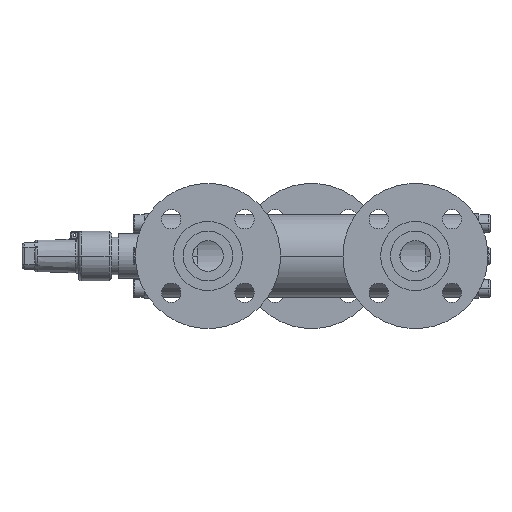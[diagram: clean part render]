
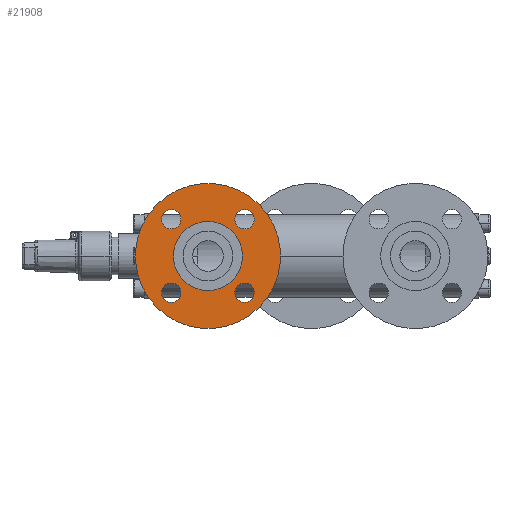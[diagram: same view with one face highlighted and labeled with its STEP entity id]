
A CAD part, left-side view. The second image highlights one B-rep face of the part: STEP entity #21908.
In plain terms, the highlighted planar face has unit normal (-1, 0, 0) as drawn and (0, -1, 0) by its records, which use the part's own axes.
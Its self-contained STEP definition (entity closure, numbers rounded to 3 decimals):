
#252 = EDGE_LOOP ( 'NONE', ( #27656, #26587 ) ) ;
#718 = ORIENTED_EDGE ( 'NONE', *, *, #13743, .T. ) ;
#17144 = CIRCLE ( 'NONE', #17150, 7. ) ;
#17150 = AXIS2_PLACEMENT_3D ( 'NONE', #17151, #17152, #17153 ) ;
#17151 = CARTESIAN_POINT ( 'NONE',  ( 0., 4., 37.5 ) ) ;
#17152 = DIRECTION ( 'NONE',  ( 0., 1., 0. ) ) ;
#17153 = DIRECTION ( 'NONE',  ( 1., 0., 0. ) ) ;
#17320 = EDGE_CURVE ( 'NONE', #11511, #11744, #4996, .T. ) ;
#17397 = EDGE_CURVE ( 'NONE', #4264, #4898, #5038, .T. ) ;
#17865 = ORIENTED_EDGE ( 'NONE', *, *, #10902, .F. ) ;
#1706 = ORIENTED_EDGE ( 'NONE', *, *, #24482, .T. ) ;
#18260 = CARTESIAN_POINT ( 'NONE',  ( -44.5, 4., 0. ) ) ;
#18487 = CARTESIAN_POINT ( 'NONE',  ( -30.5, 4., 0. ) ) ;
#18519 = CIRCLE ( 'NONE', #18525, 7. ) ;
#18525 = AXIS2_PLACEMENT_3D ( 'NONE', #18526, #18527, #18528 ) ;
#18526 = CARTESIAN_POINT ( 'NONE',  ( 0., 4., -37.5 ) ) ;
#18527 = DIRECTION ( 'NONE',  ( 0., 1., 0. ) ) ;
#18528 = DIRECTION ( 'NONE',  ( 1., 0., 0. ) ) ;
#18601 = EDGE_LOOP ( 'NONE', ( #17865, #3872 ) ) ;
#18744 = CIRCLE ( 'NONE', #18745, 7. ) ;
#18745 = AXIS2_PLACEMENT_3D ( 'NONE', #18746, #18747, #18748 ) ;
#18746 = CARTESIAN_POINT ( 'NONE',  ( -37.5, 4., 0. ) ) ;
#18747 = DIRECTION ( 'NONE',  ( 0., 1., 0. ) ) ;
#18748 = DIRECTION ( 'NONE',  ( 1., 0., 0. ) ) ;
#18854 = ORIENTED_EDGE ( 'NONE', *, *, #13172, .T. ) ;
#18888 = CARTESIAN_POINT ( 'NONE',  ( -7., 4., -37.5 ) ) ;
#2704 = EDGE_LOOP ( 'NONE', ( #1706, #718 ) ) ;
#19375 = CARTESIAN_POINT ( 'NONE',  ( 7., 4., -37.5 ) ) ;
#19405 = ORIENTED_EDGE ( 'NONE', *, *, #13663, .T. ) ;
#19519 = CIRCLE ( 'NONE', #19520, 7. ) ;
#19520 = AXIS2_PLACEMENT_3D ( 'NONE', #19521, #19522, #19523 ) ;
#19521 = CARTESIAN_POINT ( 'NONE',  ( -37.5, 4., 0. ) ) ;
#19522 = DIRECTION ( 'NONE',  ( 0., 1., 0. ) ) ;
#19523 = DIRECTION ( 'NONE',  ( 1., 0., 0. ) ) ;
#3170 = EDGE_CURVE ( 'NONE', #10041, #10472, #24164, .T. ) ;
#19611 = CIRCLE ( 'NONE', #19612, 7. ) ;
#19612 = AXIS2_PLACEMENT_3D ( 'NONE', #19617, #19618, #19619 ) ;
#19617 = CARTESIAN_POINT ( 'NONE',  ( 0., 4., -37.5 ) ) ;
#19618 = DIRECTION ( 'NONE',  ( 0., 1., 0. ) ) ;
#19619 = DIRECTION ( 'NONE',  ( 1., 0., 0. ) ) ;
#19963 = EDGE_LOOP ( 'NONE', ( #19405, #18854 ) ) ;
#20215 = ORIENTED_EDGE ( 'NONE', *, *, #20556, .T. ) ;
#3872 = ORIENTED_EDGE ( 'NONE', *, *, #3170, .F. ) ;
#4015 = VERTEX_POINT ( 'NONE', #26488 ) ;
#20556 = EDGE_CURVE ( 'NONE', #4445, #4015, #12503, .T. ) ;
#4264 = VERTEX_POINT ( 'NONE', #26569 ) ;
#20805 = ORIENTED_EDGE ( 'NONE', *, *, #21190, .T. ) ;
#4445 = VERTEX_POINT ( 'NONE', #26704 ) ;
#4687 = EDGE_CURVE ( 'NONE', #4898, #4264, #26812, .T. ) ;
#21190 = EDGE_CURVE ( 'NONE', #4015, #4445, #13815, .T. ) ;
#4898 = VERTEX_POINT ( 'NONE', #26920 ) ;
#4996 = CIRCLE ( 'NONE', #4997, 7. ) ;
#4997 = AXIS2_PLACEMENT_3D ( 'NONE', #4998, #4999, #5000 ) ;
#4998 = CARTESIAN_POINT ( 'NONE',  ( 0., 4., 37.5 ) ) ;
#4999 = DIRECTION ( 'NONE',  ( 0., 1., 0. ) ) ;
#5000 = DIRECTION ( 'NONE',  ( 1., 0., 0. ) ) ;
#5038 = CIRCLE ( 'NONE', #5039, 52.5 ) ;
#5039 = AXIS2_PLACEMENT_3D ( 'NONE', #5040, #5041, #5042 ) ;
#5040 = CARTESIAN_POINT ( 'NONE',  ( 0., 4., 0. ) ) ;
#5041 = DIRECTION ( 'NONE',  ( 0., -1., 0. ) ) ;
#5042 = DIRECTION ( 'NONE',  ( 1., 0., 0. ) ) ;
#21441 = EDGE_LOOP ( 'NONE', ( #20805, #20215 ) ) ;
#21908 = ADVANCED_FACE ( 'NONE', ( #15845, #15846, #15850, #15851, #15852, #15853 ), #15854, .T. ) ;
#24164 = CIRCLE ( 'NONE', #24165, 25. ) ;
#24165 = AXIS2_PLACEMENT_3D ( 'NONE', #24166, #24167, #24168 ) ;
#24166 = CARTESIAN_POINT ( 'NONE',  ( 0., 4., 0. ) ) ;
#24167 = DIRECTION ( 'NONE',  ( 0., -1., 0. ) ) ;
#24168 = DIRECTION ( 'NONE',  ( 1., 0., 0. ) ) ;
#24482 = EDGE_CURVE ( 'NONE', #13272, #13507, #18519, .T. ) ;
#25132 = ORIENTED_EDGE ( 'NONE', *, *, #17397, .T. ) ;
#26122 = EDGE_LOOP ( 'NONE', ( #25132, #12680 ) ) ;
#10041 = VERTEX_POINT ( 'NONE', #12821 ) ;
#26488 = CARTESIAN_POINT ( 'NONE',  ( 30.5, 4., 0. ) ) ;
#26569 = CARTESIAN_POINT ( 'NONE',  ( -52.5, 4., 0. ) ) ;
#26587 = ORIENTED_EDGE ( 'NONE', *, *, #11989, .T. ) ;
#26704 = CARTESIAN_POINT ( 'NONE',  ( 44.5, 4., 0. ) ) ;
#26812 = CIRCLE ( 'NONE', #26813, 52.5 ) ;
#26813 = AXIS2_PLACEMENT_3D ( 'NONE', #26814, #26815, #26816 ) ;
#26814 = CARTESIAN_POINT ( 'NONE',  ( 0., 4., 0. ) ) ;
#26815 = DIRECTION ( 'NONE',  ( 0., -1., 0. ) ) ;
#26816 = DIRECTION ( 'NONE',  ( 1., 0., 0. ) ) ;
#10472 = VERTEX_POINT ( 'NONE', #13257 ) ;
#26920 = CARTESIAN_POINT ( 'NONE',  ( 52.5, 4., 0. ) ) ;
#10902 = EDGE_CURVE ( 'NONE', #10472, #10041, #13802, .T. ) ;
#27656 = ORIENTED_EDGE ( 'NONE', *, *, #17320, .T. ) ;
#11511 = VERTEX_POINT ( 'NONE', #15832 ) ;
#11744 = VERTEX_POINT ( 'NONE', #16164 ) ;
#11989 = EDGE_CURVE ( 'NONE', #11744, #11511, #17144, .T. ) ;
#12503 = CIRCLE ( 'NONE', #12504, 7. ) ;
#12504 = AXIS2_PLACEMENT_3D ( 'NONE', #12505, #12506, #12507 ) ;
#12505 = CARTESIAN_POINT ( 'NONE',  ( 37.5, 4., 0. ) ) ;
#12506 = DIRECTION ( 'NONE',  ( 0., 1., 0. ) ) ;
#12507 = DIRECTION ( 'NONE',  ( 1., 0., 0. ) ) ;
#12680 = ORIENTED_EDGE ( 'NONE', *, *, #4687, .T. ) ;
#12793 = VERTEX_POINT ( 'NONE', #18260 ) ;
#12821 = CARTESIAN_POINT ( 'NONE',  ( -25., 4., 0. ) ) ;
#12936 = VERTEX_POINT ( 'NONE', #18487 ) ;
#13172 = EDGE_CURVE ( 'NONE', #12936, #12793, #18744, .T. ) ;
#13257 = CARTESIAN_POINT ( 'NONE',  ( 25., 4., 0. ) ) ;
#13272 = VERTEX_POINT ( 'NONE', #18888 ) ;
#13507 = VERTEX_POINT ( 'NONE', #19375 ) ;
#13663 = EDGE_CURVE ( 'NONE', #12793, #12936, #19519, .T. ) ;
#13743 = EDGE_CURVE ( 'NONE', #13507, #13272, #19611, .T. ) ;
#13802 = CIRCLE ( 'NONE', #13803, 25. ) ;
#13803 = AXIS2_PLACEMENT_3D ( 'NONE', #13804, #13806, #13807 ) ;
#13804 = CARTESIAN_POINT ( 'NONE',  ( 0., 4., 0. ) ) ;
#13806 = DIRECTION ( 'NONE',  ( 0., -1., 0. ) ) ;
#13807 = DIRECTION ( 'NONE',  ( 1., 0., 0. ) ) ;
#13815 = CIRCLE ( 'NONE', #13816, 7. ) ;
#13816 = AXIS2_PLACEMENT_3D ( 'NONE', #13817, #13818, #13819 ) ;
#13817 = CARTESIAN_POINT ( 'NONE',  ( 37.5, 4., 0. ) ) ;
#13818 = DIRECTION ( 'NONE',  ( 0., 1., 0. ) ) ;
#13819 = DIRECTION ( 'NONE',  ( 1., 0., 0. ) ) ;
#15832 = CARTESIAN_POINT ( 'NONE',  ( -7., 4., 37.5 ) ) ;
#15845 = FACE_BOUND ( 'NONE', #21441, .T. ) ;
#15846 = FACE_BOUND ( 'NONE', #19963, .T. ) ;
#15850 = FACE_BOUND ( 'NONE', #18601, .T. ) ;
#15851 = FACE_BOUND ( 'NONE', #2704, .T. ) ;
#15852 = FACE_BOUND ( 'NONE', #252, .T. ) ;
#15853 = FACE_OUTER_BOUND ( 'NONE', #26122, .T. ) ;
#15854 = PLANE ( 'NONE',  #15855 ) ;
#15855 = AXIS2_PLACEMENT_3D ( 'NONE', #15856, #15857, #15858 ) ;
#15856 = CARTESIAN_POINT ( 'NONE',  ( 0., 4., 0. ) ) ;
#15857 = DIRECTION ( 'NONE',  ( 0., -1., 0. ) ) ;
#15858 = DIRECTION ( 'NONE',  ( 1., 0., 0. ) ) ;
#16164 = CARTESIAN_POINT ( 'NONE',  ( 7., 4., 37.5 ) ) ;
